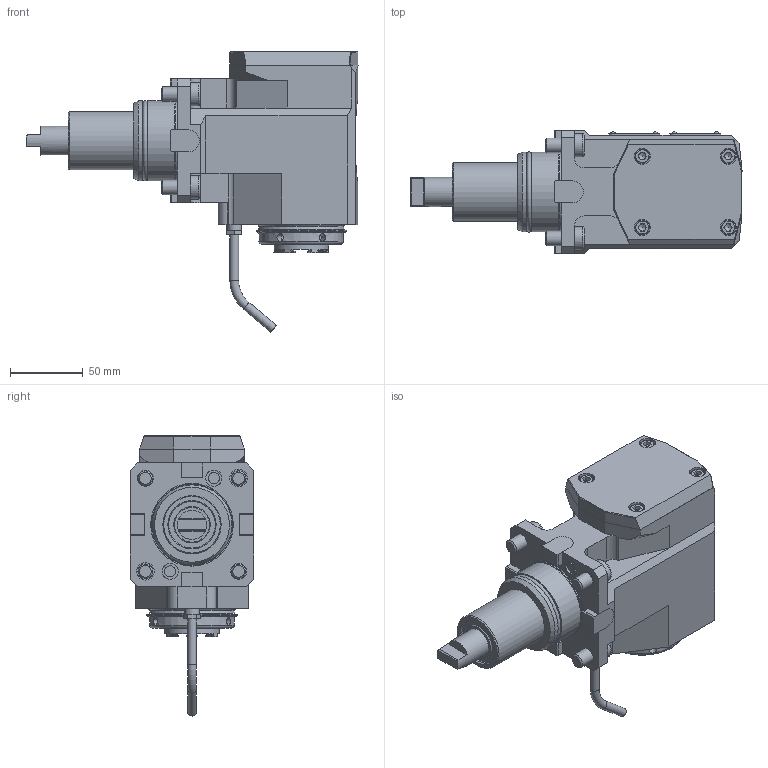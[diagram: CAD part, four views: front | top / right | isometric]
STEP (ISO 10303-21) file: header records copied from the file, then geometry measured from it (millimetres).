
FILE_DESCRIPTION(/* description */ (''),/* implementation_level */ '2;1');
FILE_NAME(/* name */ '192511',/* time_stamp */ '2022-01-13T10:17:38+01:00',/* author */ (''),/* organization */ (''),/* preprocessor_version */ 'ST-DEVELOPER v16.5',/* originating_system */ 'HiCAD 2017 2201.0 Build 268',/* authorisation */ '');
FILE_SCHEMA (('AUTOMOTIVE_DESIGN { 1 0 10303 214 1 1 1 1 }'));
Products named in the file (56): Root; AGW; Leeres Teil; 003_000X_235*; ROTATIONSTEIL_0_200*; DIN 76-M5; DIN 13-M12; DIN 6912 - M 10 x 20 - 8.8_Zylinderkopfschraube mit Innensechskant DI
N 6912 - M 10 x 20 - 8.8_400*; GEWINDE; BG_M10; TORUS_1_354*; 114052_O-Ring 49x3_330*; 173501_Kantsealring 7.65x1.68_335*; NUTENSTEIN_280*; 00011769_372*; 113692_Kerbnagel 2x4_380*; QUADER_0_370*; 001_000X_101*; DIN 13-M20x1; DIN 913-M 8x20-45H_Gewindwstift DIN 913-M 8x20-45H_424*; 112963_Spannmutter ER32 HI_QERAXC_340; 00090156_270*; SPINDEL ER32_150*; DIN 13-M25x1
Assembly tree (55 placements, depth 7):
  Root
    AGW
      Leeres Teil
        Leeres Teil
          003_000X_235*
          ROTATIONSTEIL_0_200*
            DIN 76-M5
            DIN 13-M12
            DIN 13-M12
        Leeres Teil
          Leeres Teil
            DIN 6912 - M 10 x 20 - 8.8_Zylinderkopfschraube mit Innensechskant DI
N 6912 - M 10 x 20 - 8.8_400*
              GEWINDE
            DIN 6912 - M 10 x 20 - 8.8_Zylinderkopfschraube mit Innensechskant DI
N 6912 - M 10 x 20 - 8.8_400*
              GEWINDE
            DIN 6912 - M 10 x 20 - 8.8_Zylinderkopfschraube mit Innensechskant DI
N 6912 - M 10 x 20 - 8.8_400*
              GEWINDE
            DIN 6912 - M 10 x 20 - 8.8_Zylinderkopfschraube mit Innensechskant DI
N 6912 - M 10 x 20 - 8.8_400*
              GEWINDE
          BG_M10
            TORUS_1_354*
          Leeres Teil
            114052_O-Ring 49x3_330*
            173501_Kantsealring 7.65x1.68_335*
            173501_Kantsealring 7.65x1.68_335*
          Leeres Teil
            NUTENSTEIN_280*
            NUTENSTEIN_280*
            NUTENSTEIN_280*
            NUTENSTEIN_280*
          Leeres Teil
            Leeres Teil
              00011769_372*
              113692_Kerbnagel 2x4_380*
              113692_Kerbnagel 2x4_380*
              113692_Kerbnagel 2x4_380*
              113692_Kerbnagel 2x4_380*
            Leeres Teil
              113692_Kerbnagel 2x4_380*
              113692_Kerbnagel 2x4_380*
              113692_Kerbnagel 2x4_380*
              113692_Kerbnagel 2x4_380*
              QUADER_0_370*
      Leeres Teil
        001_000X_101*
          DIN 13-M20x1
      Leeres Teil
        Leeres Teil
          DIN 913-M 8x20-45H_Gewindwstift DIN 913-M 8x20-45H_424*
            GEWINDE
          112963_Spannmutter ER32 HI_QERAXC_340
        Leeres Teil
          00090156_270*
          SPINDEL ER32_150*
            DIN 13-M25x1
            DIN 76-M5
Bounding box: 228 x 85 x 192.35 mm (x, y, z)
Volume: 1136855.9 mm3; surface area: 157655.8 mm2
Topology: 36 solids, 36 shells, 974 faces, 2431 edges, 1578 vertices
Faces by surface type: plane 591, cylinder 239, cone 64, bspline 38, torus 34, sphere 8
Full cylindrical faces by diameter (mm): 2 x8, 2.2 x8, 4 x2, 5.1 x6, 6 x3, 6.466 x2, 7.65 x2, 8 x1, 8.16 x8, 10 x13, 10.2 x2, 11 x6, 11.01 x2, 11.1 x2, 12 x4, 16 x4, 20 x1, 23.5 x1, 23.501 x1, 24 x1, 25 x1, 27 x2, 29.4 x1, 32 x1, 35 x1, 37.5 x1, 38 x1, 40 x4, 40.501 x1, 42.439 x1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
Entity records: 57274 total; most frequent: CARTESIAN_POINT 13098, DIRECTION 4640, PRESENTATION_STYLE_ASSIGNMENT 4316, ORIENTED_EDGE 4296, COLOUR_RGB 4287, DRAUGHTING_PRE_DEFINED_CURVE_FONT 4280, CURVE_STYLE 4280, OVER_RIDING_STYLED_ITEM 4280
